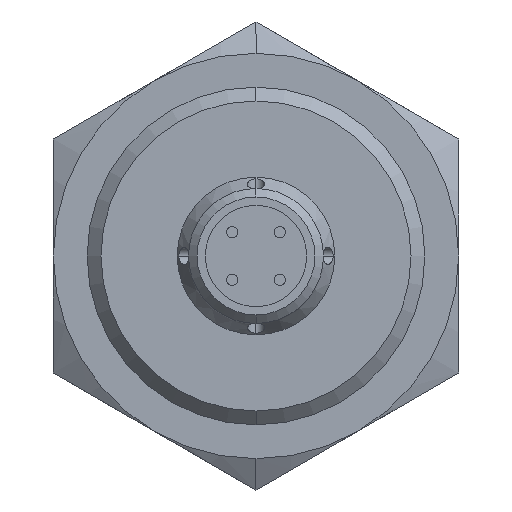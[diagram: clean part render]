
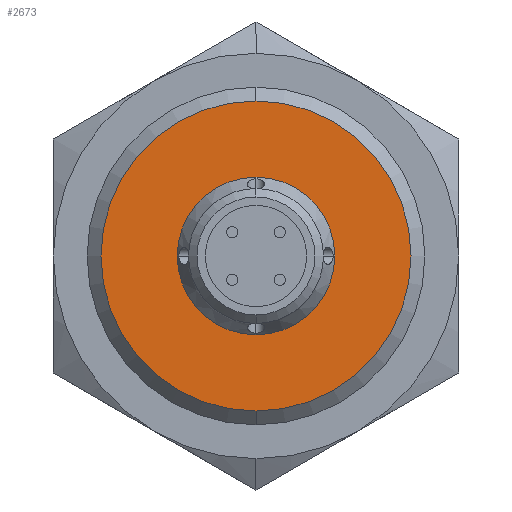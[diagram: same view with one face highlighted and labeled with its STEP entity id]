
A CAD part, left-side view. The second image highlights one B-rep face of the part: STEP entity #2673.
In plain terms, the highlighted planar face has unit normal (-1, 0, 0).
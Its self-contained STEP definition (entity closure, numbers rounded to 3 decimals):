
#2566=CARTESIAN_POINT('POINT9341',(-37.,0.,
   7.));
#2567=VERTEX_POINT('VERTEX9341',#2566);
#2574=CARTESIAN_POINT('POINT9342',(-37.,0.,
   -7.));
#2575=VERTEX_POINT('VERTEX9342',#2574);
#2576=CARTESIAN_POINT('POS11943',(-37.,0.,0.));
#2577=DIRECTION('DIR19072',(1.,0.,0.));
#2578=DIRECTION('DIR19073',(0.,0.,1.));
#2579=AXIS2_PLACEMENT_3D('AXIS7130',#2576,#2577,#2578);
#2580=CIRCLE('ELLIPSE3166',#2579,7.);
#2581=EDGE_CURVE('EDGE15583',#2575,#2567,#2580,.T.);
#2616=EDGE_CURVE('EDGE15586',#2567,#2575,#2580,.T.);
#2649=CARTESIAN_POINT('POINT9345',(-37.,0.,
   13.773));
#2650=VERTEX_POINT('VERTEX9345',#2649);
#2651=CARTESIAN_POINT('POINT9346',(-37.,0.,
   -13.773));
#2652=VERTEX_POINT('VERTEX9346',#2651);
#2653=CARTESIAN_POINT('POS11949',(-37.,0.,0.));
#2654=DIRECTION('DIR19082',(1.,0.,0.));
#2655=DIRECTION('DIR19083',(0.,0.,1.));
#2656=AXIS2_PLACEMENT_3D('AXIS7134',#2653,#2654,#2655);
#2657=CIRCLE('ELLIPSE3168',#2656,13.773);
#2658=EDGE_CURVE('EDGE15589',#2650,#2652,#2657,.T.);
#2659=ORIENTED_EDGE('COEDGE31173',*,*,#2658,.F.);
#2660=EDGE_CURVE('EDGE15590',#2652,#2650,#2657,.T.);
#2661=ORIENTED_EDGE('COEDGE31174',*,*,#2660,.F.);
#2662=EDGE_LOOP('NONE',(#2659,#2661));
#2663=FACE_BOUND('LOOP1',#2662,.T.);
#2664=ORIENTED_EDGE('COEDGE31175',*,*,#2616,.T.);
#2665=ORIENTED_EDGE('COEDGE31176',*,*,#2581,.T.);
#2666=EDGE_LOOP('NONE',(#2664,#2665));
#2667=FACE_BOUND('LOOP1',#2666,.T.);
#2668=CARTESIAN_POINT('POS11950',(-37.,0.,
   10.387));
#2669=DIRECTION('DIR19084',(-1.,0.,0.));
#2670=DIRECTION('DIR19085',(0.,1.,0.));
#2671=AXIS2_PLACEMENT_3D('AXIS7135',#2668,#2669,#2670);
#2672=PLANE('PLANE2210',#2671);
#2673=ADVANCED_FACE('FACE7422',(#2663,#2667),#2672,.T.);
